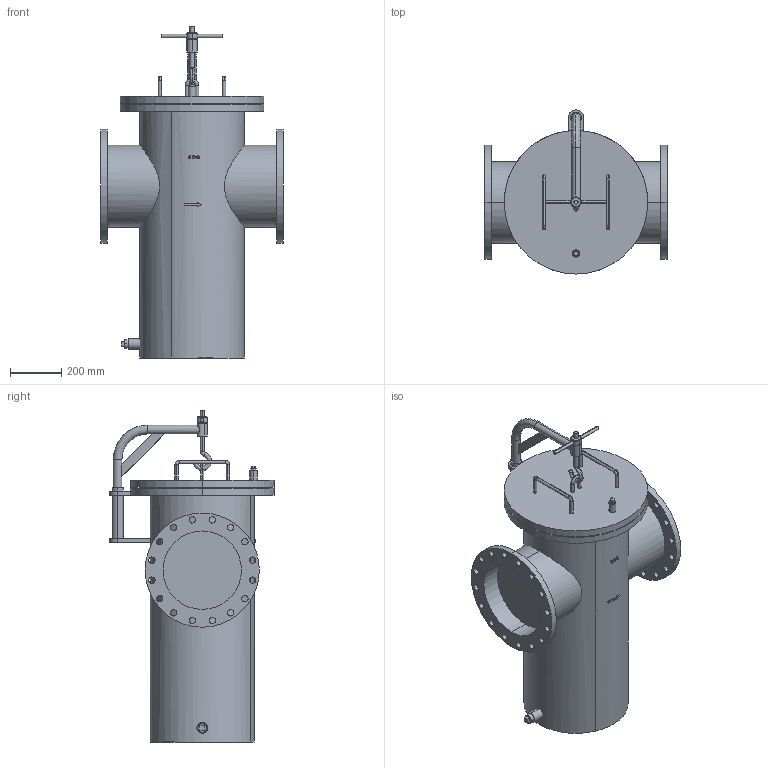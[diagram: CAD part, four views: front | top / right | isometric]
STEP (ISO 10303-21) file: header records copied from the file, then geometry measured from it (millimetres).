
FILE_DESCRIPTION( (''), '2;1');
FILE_NAME ('PC1056.128.SU-6(300A)_13850.stp','2024-07-26T11:25:51',(''),(''),'spGate 19.8.4 (****-****-****-****)','','');
FILE_SCHEMA (('AUTOMOTIVE_DESIGN'));
Length unit declared in the file: millimetre
Products named in the file (17): Assembly; SU6(300A)本体P; 300Aふた用取っ手_M7; PC1056-prt2; ふた側フック_M4; PC1056-prt4; PC1056-prt5; PC1056-prt6; 吊り下げフック_M5; 200Aハンドル; PC1056-prt9; PC1056-prt10; PC1056-prt11; PC1056-prt12; 300Aダビッド_M5; 四角頭R1_2プラグ; plug-25A-JISB2301
Assembly tree (17 placements, depth 2):
  Assembly
    SU6(300A)本体P
    300Aふた用取っ手_M7  x2
    PC1056-prt2
    ふた側フック_M4
    PC1056-prt4
    PC1056-prt5
    PC1056-prt6
    吊り下げフック_M5
    200Aハンドル
    PC1056-prt9
    PC1056-prt10
    PC1056-prt11
    PC1056-prt12
    300Aダビッド_M5
    四角頭R1_2プラグ
    plug-25A-JISB2301
Bounding box: 710 x 640 x 1294.5 mm (x, y, z)
Volume: 159768414.4 mm3; surface area: 3083395.8 mm2
Topology: 9 solids, 9 shells, 306 faces, 755 edges, 504 vertices
Faces by surface type: cylinder 170, plane 83, bspline 53
Entity records: 19037 total; most frequent: CARTESIAN_POINT 6106, ORIENTED_EDGE 1434, DIRECTION 1387, COLOUR_RGB 1027, PRESENTATION_STYLE_ASSIGNMENT 1027, STYLED_ITEM 1027, DRAUGHTING_PRE_DEFINED_CURVE_FONT 725, CURVE_STYLE 725
